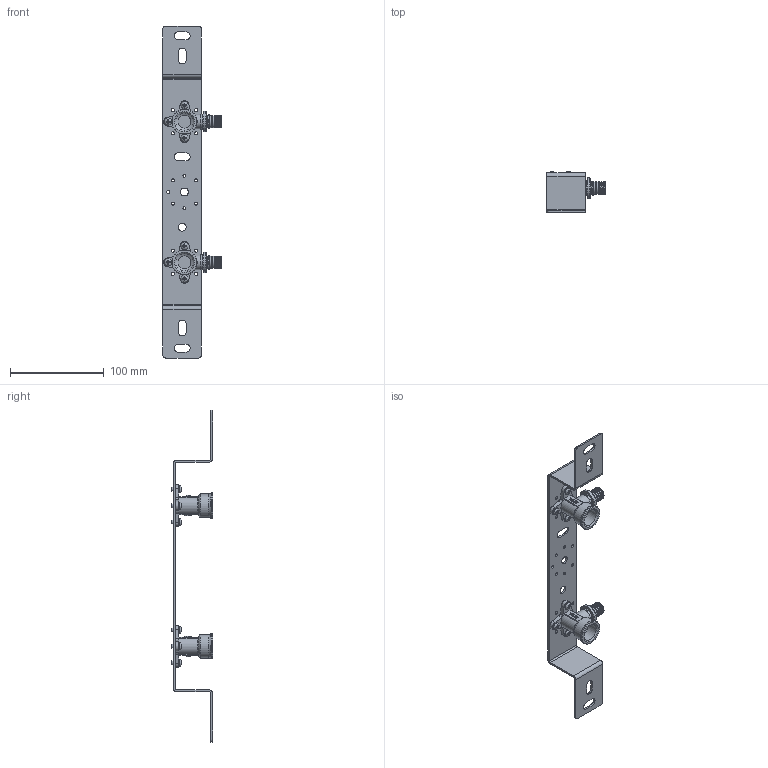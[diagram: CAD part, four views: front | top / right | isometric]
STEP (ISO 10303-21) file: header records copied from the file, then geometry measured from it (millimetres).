
FILE_DESCRIPTION(('STEP AP242'), '1');
FILE_NAME('VTm.424', '', ('UNSPECIFIED'), ('UNSPECIFIED'), 'C3D Converter', 'C3D Toolkit', '');
FILE_SCHEMA(('AP242_MANAGED_MODEL_BASED_3D_ENGINEERING_MIM_LF { 1 0 10303 442 1 1 4 }'));
Length unit declared in the file: millimetre
Products named in the file (4): ВР.302635.123-04; ВР.745422.002-01; ВР.731244.002
Assembly tree (9 placements, depth 2):
  ВР.302635.123-04
    ВР.745422.002-01
    ВР.731244.002  x2
    (unnamed)  x6
Bounding box: 62.1 x 44 x 354 mm (x, y, z)
Volume: 57615.5 mm3; surface area: 53446.2 mm2
Topology: 1 solids, 7 shells, 873 faces, 2442 edges, 1660 vertices
Faces by surface type: plane 362, extrusion 284, cylinder 137, torus 60, cone 18, bspline 12
Full cylindrical faces by diameter (mm): 3.242 x15, 4 x12, 4.5 x6, 7.5 x6, 8.5 x4, 10 x2, 12.8 x8, 13.5 x8, 14 x2, 15 x2, 15.5 x2, 15.8 x2, 18.632 x2, 21.9 x2, 25 x2, 27 x2
Entity records: 37773 total; most frequent: CARTESIAN_POINT 16752, ORIENTED_EDGE 4264, DIRECTION 3330, EDGE_CURVE 2132, VERTEX_POINT 1484, VECTOR 1396, EDGE_LOOP 1144, LINE 1112
